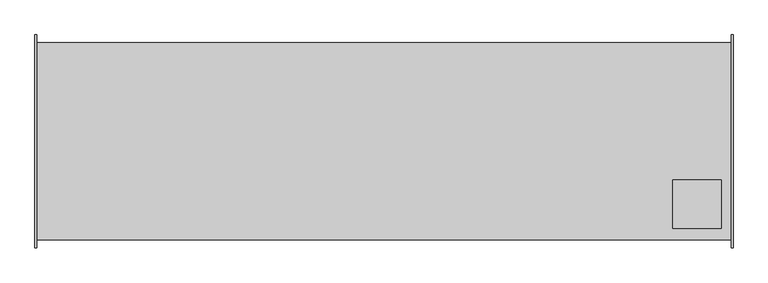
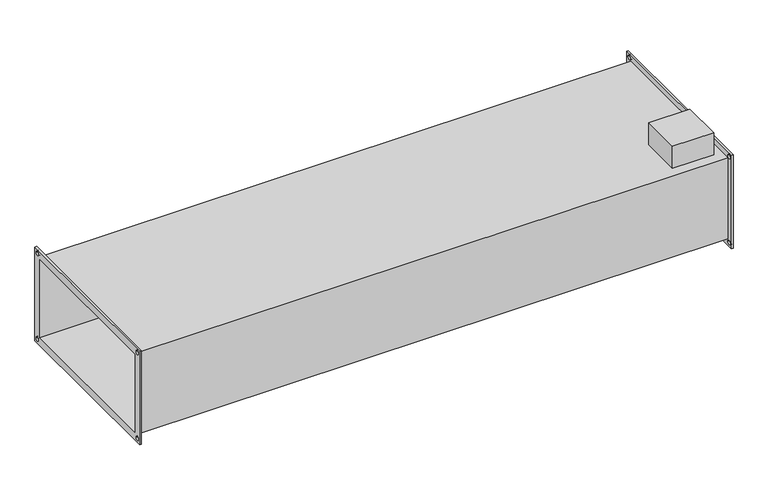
"""IFC4 building model written with IfcOpenShell, lengths in millimetres: proxy geometry, СВ_СекцияБактерициднойОбработкиВоздуха_КанальнаяПрямоугольная_200-1000_SBS : SBS-400x200/143."""

from ifc_helpers import new_model, si_unit, frame, origin, place, context, project, spatial, polyline, circle_curve, source, transform, mapped, element, save
from ifc_brep_helpers import plane_surface, revolved_surface, advanced_brep


def mechanical_equipment_16eab25d(model_context):
    return source(origin(), model_context, "Body", "AdvancedBrep", [
        advanced_brep(
        [(716.0, -204.0, 104.0), (-716.0, -204.0, 104.0), (-716.0, -204.0, -104.0), (716.0, -204.0, -104.0), (-716.0, 204.0, -104.0), (716.0, 204.0, -104.0), (-716.0, 204.0, 104.0), (716.0, 204.0, 104.0), (596.0, -80.0, 104.0), (696.0, -80.0, 104.0), (696.0, -180.0, 104.0), (596.0, -180.0, 104.0), (696.0, -80.0, 160.0), (596.0, -80.0, 160.0), (596.0, -180.0, 160.0), (696.0, -180.0, 160.0), (-720.0, -220.0, 120.0), (-720.0, 220.0, 120.0), (-720.0, 220.0, -120.0), (-720.0, -220.0, -120.0), (-720.0, -200.0, 100.0), (-720.0, -200.0, -100.0), (-720.0, 200.0, -100.0), (-720.0, 200.0, 100.0), (-720.0, -215.0, 110.0), (-720.0, -205.0, 110.0), (-720.0, -215.0, -110.0), (-720.0, -205.0, -110.0), (-720.0, 205.0, -110.0), (-720.0, 215.0, -110.0), (-720.0, 205.0, 110.0), (-720.0, 215.0, 110.0), (-716.0, -220.0, 120.0), (-716.0, -220.0, -120.0), (-716.0, 220.0, -120.0), (-716.0, 220.0, 120.0), (-716.0, -205.0, 110.0), (-716.0, -215.0, 110.0), (-716.0, -205.0, -110.0), (-716.0, -215.0, -110.0), (-716.0, 215.0, -110.0), (-716.0, 205.0, -110.0), (-716.0, 215.0, 110.0), (-716.0, 205.0, 110.0), (716.0, 220.0, 120.0), (716.0, 220.0, -120.0), (716.0, -220.0, -120.0), (716.0, -220.0, 120.0), (716.0, -215.0, 110.0), (716.0, -205.0, 110.0), (716.0, -215.0, -110.0), (716.0, -205.0, -110.0), (716.0, 205.0, -110.0), (716.0, 215.0, -110.0), (716.0, 205.0, 110.0), (716.0, 215.0, 110.0), (720.0, 220.0, 120.0), (720.0, -220.0, 120.0), (720.0, -220.0, -120.0), (720.0, 220.0, -120.0), (720.0, 200.0, 100.0), (720.0, 200.0, -100.0), (720.0, -200.0, -100.0), (720.0, -200.0, 100.0), (720.0, -205.0, 110.0), (720.0, -215.0, 110.0), (720.0, -205.0, -110.0), (720.0, -215.0, -110.0), (720.0, 215.0, -110.0), (720.0, 205.0, -110.0), (720.0, 215.0, 110.0), (720.0, 205.0, 110.0)],
        [
            (0, 1),
            (1, 2),
            (2, 3),
            (3, 0),
            (2, 4),
            (4, 5),
            (5, 3),
            (4, 6),
            (6, 7),
            (7, 5),
            (0, 7),
            (6, 1),
            (8, 9),
            (9, 10),
            (10, 11),
            (11, 8),
            (12, 13),
            (13, 14),
            (14, 15),
            (15, 12),
            (12, 9),
            (8, 13),
            (11, 14),
            (10, 15),
            (16, 17),
            (17, 18),
            (18, 19),
            (19, 16),
            (20, 21),
            (21, 22),
            (22, 23),
            (23, 20),
            (24, 25, circle_curve(frame((-720.0, -210.0, 110.0), z_axis=(1.0, 0.0, 0.0), x_axis=(0.0, 1.0, 0.0)), 5.0)),
            (25, 24, circle_curve(frame((-720.0, -210.0, 110.0), z_axis=(1.0, 0.0, 0.0), x_axis=(0.0, 1.0, 0.0)), 5.0)),
            (26, 27, circle_curve(frame((-720.0, -210.0, -110.0), z_axis=(1.0, 0.0, 0.0), x_axis=(0.0, 1.0, 0.0)), 5.0)),
            (27, 26, circle_curve(frame((-720.0, -210.0, -110.0), z_axis=(1.0, 0.0, 0.0), x_axis=(0.0, 1.0, 0.0)), 5.0)),
            (28, 29, circle_curve(frame((-720.0, 210.0, -110.0), z_axis=(1.0, 0.0, 0.0), x_axis=(0.0, 1.0, 0.0)), 5.0)),
            (29, 28, circle_curve(frame((-720.0, 210.0, -110.0), z_axis=(1.0, 0.0, 0.0), x_axis=(0.0, 1.0, 0.0)), 5.0)),
            (30, 31, circle_curve(frame((-720.0, 210.0, 110.0), z_axis=(1.0, 0.0, 0.0), x_axis=(0.0, 1.0, 0.0)), 5.0)),
            (31, 30, circle_curve(frame((-720.0, 210.0, 110.0), z_axis=(1.0, 0.0, 0.0), x_axis=(0.0, 1.0, 0.0)), 5.0)),
            (32, 33),
            (33, 34),
            (34, 35),
            (35, 32),
            (36, 37, circle_curve(frame((-716.0, -210.0, 110.0), z_axis=(-1.0, 0.0, 0.0), x_axis=(0.0, 1.0, 0.0)), 5.0)),
            (37, 36, circle_curve(frame((-716.0, -210.0, 110.0), z_axis=(-1.0, 0.0, 0.0), x_axis=(0.0, 1.0, 0.0)), 5.0)),
            (38, 39, circle_curve(frame((-716.0, -210.0, -110.0), z_axis=(-1.0, 0.0, 0.0), x_axis=(0.0, 1.0, 0.0)), 5.0)),
            (39, 38, circle_curve(frame((-716.0, -210.0, -110.0), z_axis=(-1.0, 0.0, 0.0), x_axis=(0.0, 1.0, 0.0)), 5.0)),
            (40, 41, circle_curve(frame((-716.0, 210.0, -110.0), z_axis=(-1.0, 0.0, 0.0), x_axis=(0.0, 1.0, 0.0)), 5.0)),
            (41, 40, circle_curve(frame((-716.0, 210.0, -110.0), z_axis=(-1.0, 0.0, 0.0), x_axis=(0.0, 1.0, 0.0)), 5.0)),
            (42, 43, circle_curve(frame((-716.0, 210.0, 110.0), z_axis=(-1.0, 0.0, 0.0), x_axis=(0.0, 1.0, 0.0)), 5.0)),
            (43, 42, circle_curve(frame((-716.0, 210.0, 110.0), z_axis=(-1.0, 0.0, 0.0), x_axis=(0.0, 1.0, 0.0)), 5.0)),
            (19, 33),
            (32, 16),
            (18, 34),
            (17, 35),
            (44, 45),
            (45, 46),
            (46, 47),
            (47, 44),
            (48, 49, circle_curve(frame((716.0, -210.0, 110.0), z_axis=(1.0, 0.0, 0.0), x_axis=(0.0, 1.0, 0.0)), 5.0)),
            (49, 48, circle_curve(frame((716.0, -210.0, 110.0), z_axis=(1.0, 0.0, 0.0), x_axis=(0.0, 1.0, 0.0)), 5.0)),
            (50, 51, circle_curve(frame((716.0, -210.0, -110.0), z_axis=(1.0, 0.0, 0.0), x_axis=(0.0, 1.0, 0.0)), 5.0)),
            (51, 50, circle_curve(frame((716.0, -210.0, -110.0), z_axis=(1.0, 0.0, 0.0), x_axis=(0.0, 1.0, 0.0)), 5.0)),
            (52, 53, circle_curve(frame((716.0, 210.0, -110.0), z_axis=(1.0, 0.0, 0.0), x_axis=(0.0, 1.0, 0.0)), 5.0)),
            (53, 52, circle_curve(frame((716.0, 210.0, -110.0), z_axis=(1.0, 0.0, 0.0), x_axis=(0.0, 1.0, 0.0)), 5.0)),
            (54, 55, circle_curve(frame((716.0, 210.0, 110.0), z_axis=(1.0, 0.0, 0.0), x_axis=(0.0, 1.0, 0.0)), 5.0)),
            (55, 54, circle_curve(frame((716.0, 210.0, 110.0), z_axis=(1.0, 0.0, 0.0), x_axis=(0.0, 1.0, 0.0)), 5.0)),
            (56, 57),
            (57, 58),
            (58, 59),
            (59, 56),
            (60, 61),
            (61, 62),
            (62, 63),
            (63, 60),
            (64, 65, circle_curve(frame((720.0, -210.0, 110.0), z_axis=(-1.0, 0.0, 0.0), x_axis=(0.0, 1.0, 0.0)), 5.0)),
            (65, 64, circle_curve(frame((720.0, -210.0, 110.0), z_axis=(-1.0, 0.0, 0.0), x_axis=(0.0, 1.0, 0.0)), 5.0)),
            (66, 67, circle_curve(frame((720.0, -210.0, -110.0), z_axis=(-1.0, 0.0, 0.0), x_axis=(0.0, 1.0, 0.0)), 5.0)),
            (67, 66, circle_curve(frame((720.0, -210.0, -110.0), z_axis=(-1.0, 0.0, 0.0), x_axis=(0.0, 1.0, 0.0)), 5.0)),
            (68, 69, circle_curve(frame((720.0, 210.0, -110.0), z_axis=(-1.0, 0.0, 0.0), x_axis=(0.0, 1.0, 0.0)), 5.0)),
            (69, 68, circle_curve(frame((720.0, 210.0, -110.0), z_axis=(-1.0, 0.0, 0.0), x_axis=(0.0, 1.0, 0.0)), 5.0)),
            (70, 71, circle_curve(frame((720.0, 210.0, 110.0), z_axis=(-1.0, 0.0, 0.0), x_axis=(0.0, 1.0, 0.0)), 5.0)),
            (71, 70, circle_curve(frame((720.0, 210.0, 110.0), z_axis=(-1.0, 0.0, 0.0), x_axis=(0.0, 1.0, 0.0)), 5.0)),
            (47, 57),
            (56, 44),
            (46, 58),
            (45, 59),
            (23, 60),
            (63, 20),
            (22, 61),
            (21, 62),
            (24, 37),
            (36, 25),
            (48, 65),
            (64, 49),
            (26, 39),
            (38, 27),
            (50, 67),
            (66, 51),
            (28, 41),
            (40, 29),
            (52, 69),
            (68, 53),
            (30, 43),
            (42, 31),
            (54, 71),
            (70, 55),
        ],
        [
            plane_surface(frame((716.0, -204.0, 104.0), z_axis=(0.0, -1.0, 0.0), x_axis=(-1.0, 0.0, 0.0))),
            plane_surface(frame((716.0, -204.0, -104.0), z_axis=(0.0, 0.0, -1.0), x_axis=(-1.0, 0.0, 0.0))),
            plane_surface(frame((716.0, 204.0, -104.0), z_axis=(0.0, 1.0, 0.0), x_axis=(-1.0, 0.0, 0.0))),
            plane_surface(frame((716.0, 204.0, 104.0), z_axis=(0.0, 0.0, 1.0), x_axis=(-1.0, 0.0, 0.0))),
            plane_surface(frame((596.0, -80.0, 160.0), z_axis=(0.0, 0.0, 1.0), x_axis=(-1.0, 0.0, 0.0))),
            plane_surface(frame((696.0, -80.0, 160.0), z_axis=(0.0, 1.0, 0.0), x_axis=(0.0, 0.0, -1.0))),
            plane_surface(frame((596.0, -80.0, 160.0), z_axis=(-1.0, 0.0, 0.0), x_axis=(0.0, 0.0, -1.0))),
            plane_surface(frame((596.0, -180.0, 160.0), z_axis=(0.0, -1.0, 0.0), x_axis=(0.0, 0.0, -1.0))),
            plane_surface(frame((696.0, -180.0, 160.0), z_axis=(1.0, 0.0, 0.0), x_axis=(0.0, 0.0, -1.0))),
            plane_surface(frame((-720.0, -220.0, 120.0), z_axis=(-1.0, 0.0, 0.0), x_axis=(0.0, 0.0, 1.0))),
            plane_surface(frame((-716.0, -220.0, 120.0), z_axis=(1.0, 0.0, 0.0), x_axis=(0.0, 0.0, -1.0))),
            plane_surface(frame((-716.0, -220.0, 120.0), z_axis=(0.0, -1.0, 0.0), x_axis=(-1.0, 0.0, 0.0))),
            plane_surface(frame((-716.0, -220.0, -120.0), z_axis=(0.0, 0.0, -1.0), x_axis=(-1.0, 0.0, 0.0))),
            plane_surface(frame((-716.0, 220.0, -120.0), z_axis=(0.0, 1.0, 0.0), x_axis=(-1.0, 0.0, 0.0))),
            plane_surface(frame((-716.0, 220.0, 120.0), z_axis=(0.0, 0.0, 1.0), x_axis=(-1.0, 0.0, 0.0))),
            plane_surface(frame((716.0, 200.0, -100.0), z_axis=(-1.0, 0.0, 0.0), x_axis=(0.0, 0.0, 1.0))),
            plane_surface(frame((720.0, 200.0, -100.0), z_axis=(1.0, 0.0, 0.0), x_axis=(0.0, 0.0, -1.0))),
            plane_surface(frame((720.0, 220.0, 120.0), z_axis=(0.0, 0.0, 1.0), x_axis=(-1.0, 0.0, 0.0))),
            plane_surface(frame((720.0, -220.0, 120.0), z_axis=(0.0, -1.0, 0.0), x_axis=(-1.0, 0.0, 0.0))),
            plane_surface(frame((720.0, -220.0, -120.0), z_axis=(0.0, 0.0, -1.0), x_axis=(-1.0, 0.0, 0.0))),
            plane_surface(frame((720.0, 220.0, -120.0), z_axis=(0.0, 1.0, 0.0), x_axis=(-1.0, 0.0, 0.0))),
            plane_surface(frame((-716.0, -200.0, 100.0), z_axis=(0.0, 0.0, -1.0), x_axis=(-1.0, 0.0, 0.0))),
            plane_surface(frame((-716.0, 200.0, 100.0), z_axis=(0.0, -1.0, 0.0), x_axis=(-1.0, 0.0, 0.0))),
            plane_surface(frame((-716.0, 200.0, -100.0), z_axis=(0.0, 0.0, 1.0), x_axis=(-1.0, 0.0, 0.0))),
            plane_surface(frame((-716.0, -200.0, -100.0), z_axis=(0.0, 1.0, 0.0), x_axis=(-1.0, 0.0, 0.0))),
            revolved_surface(polyline([(-716.0, -205.0, 110.0), (-720.0, -205.0, 110.0)]), (-720.0, -210.0, 110.0), (1.0, 0.0, 0.0)),
            revolved_surface(polyline([(720.0, -205.0, 110.0), (716.0, -205.0, 110.0)]), (-720.0, -210.0, 110.0), (1.0, 0.0, 0.0)),
            revolved_surface(polyline([(-716.0, -205.0, -110.0), (-720.0, -205.0, -110.0)]), (0.0, -210.0, -110.0), (1.0, 0.0, 0.0)),
            revolved_surface(polyline([(720.0, -205.0, -110.0), (716.0, -205.0, -110.0)]), (0.0, -210.0, -110.0), (1.0, 0.0, 0.0)),
            revolved_surface(polyline([(-716.0, 215.0, -110.0), (-720.0, 215.0, -110.0)]), (0.0, 210.0, -110.0), (1.0, 0.0, 0.0)),
            revolved_surface(polyline([(720.0, 215.0, -110.0), (716.0, 215.0, -110.0)]), (0.0, 210.0, -110.0), (1.0, 0.0, 0.0)),
            revolved_surface(polyline([(-716.0, 215.0, 110.0), (-720.0, 215.0, 110.0)]), (0.0, 210.0, 110.0), (1.0, 0.0, 0.0)),
            revolved_surface(polyline([(720.0, 215.0, 110.0), (716.0, 215.0, 110.0)]), (0.0, 210.0, 110.0), (1.0, 0.0, 0.0)),
        ],
        [
            (0, [[1, 2, 3, 4]]),
            (1, [[-3, 5, 6, 7]]),
            (2, [[-6, 8, 9, 10]]),
            (3, [[-1, 11, -9, 12], [13, 14, 15, 16]]),
            (4, [[17, 18, 19, 20]]),
            (5, [[-17, 21, -13, 22]]),
            (6, [[-18, -22, -16, 23]]),
            (7, [[-19, -23, -15, 24]]),
            (8, [[-20, -24, -14, -21]]),
            (9, [[25, 26, 27, 28], [29, 30, 31, 32], [33, 34], [35, 36], [37, 38], [39, 40]]),
            (10, [[41, 42, 43, 44], [-2, -12, -8, -5], [45, 46], [47, 48], [49, 50], [51, 52]]),
            (11, [[-28, 53, -41, 54]]),
            (12, [[-27, 55, -42, -53]]),
            (13, [[-26, 56, -43, -55]]),
            (14, [[-25, -54, -44, -56]]),
            (15, [[57, 58, 59, 60], [-4, -7, -10, -11], [61, 62], [63, 64], [65, 66], [67, 68]]),
            (16, [[69, 70, 71, 72], [73, 74, 75, 76], [77, 78], [79, 80], [81, 82], [83, 84]]),
            (17, [[-60, 85, -69, 86]]),
            (18, [[-59, 87, -70, -85]]),
            (19, [[-58, 88, -71, -87]]),
            (20, [[-57, -86, -72, -88]]),
            (21, [[-32, 89, -76, 90]]),
            (22, [[-31, 91, -73, -89]]),
            (23, [[-30, 92, -74, -91]]),
            (24, [[-29, -90, -75, -92]]),
            (25, [[93, -45, 94, -33]]),
            (26, [[95, -77, 96, -61]]),
            (25, [[-93, -34, -94, -46]]),
            (26, [[-95, -62, -96, -78]]),
            (27, [[97, -47, 98, -35]]),
            (28, [[99, -79, 100, -63]]),
            (27, [[-97, -36, -98, -48]]),
            (28, [[-99, -64, -100, -80]]),
            (29, [[101, -49, 102, -37]]),
            (30, [[103, -81, 104, -65]]),
            (29, [[-101, -38, -102, -50]]),
            (30, [[-103, -66, -104, -82]]),
            (31, [[105, -51, 106, -39]]),
            (32, [[107, -83, 108, -67]]),
            (31, [[-105, -40, -106, -52]]),
            (32, [[-107, -68, -108, -84]]),
        ],
    ),
    ])


if __name__ == "__main__":
    model = new_model("IFC4")
    model_context = context("Model", 3, world=origin())
    ifc_project = project(units=[si_unit("LENGTHUNIT", "METRE", prefix="MILLI")], contexts=[model_context])
    site = spatial("IfcSite", under=ifc_project)
    building = spatial("IfcBuilding", under=site)
    placement = place(None, origin())
    mechanical_equipment_shape = mechanical_equipment_16eab25d(model_context)
    element("IfcBuildingElementProxy", 1, Name="СВ_СекцияБактерициднойОбработкиВоздуха_КанальнаяПрямоугольная_200-1000_SBS : SBS-400x200/143", ObjectType="СВ_СекцияБактерициднойОбработкиВоздуха_КанальнаяПрямоугольная_200-1000_SBS : SBS-400x200/143", at=placement, inside=building, context=model_context, shape_type="MappedRepresentation", body=[
        mapped(mechanical_equipment_shape, transform((0.0, 0.0, 0.0), x_axis=(1.0, 0.0, 0.0), y_axis=(0.0, 1.0, 0.0), z_axis=(0.0, 0.0, 1.0))),
    ])
    save(model, "model.ifc")
